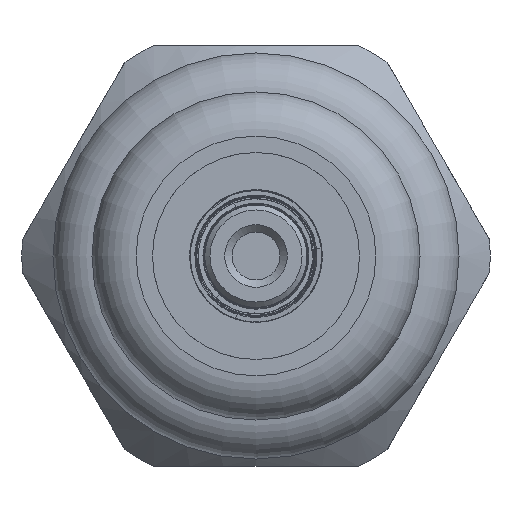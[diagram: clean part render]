
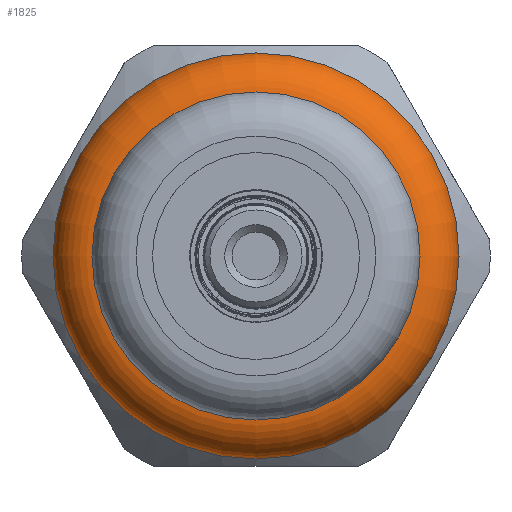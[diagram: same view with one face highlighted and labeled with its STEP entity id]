
A CAD part, left-side view. The second image highlights one B-rep face of the part: STEP entity #1825.
In plain terms, the highlighted toroidal (fillet/blend) face has major radius 10.75 mm and minor radius 3 mm.
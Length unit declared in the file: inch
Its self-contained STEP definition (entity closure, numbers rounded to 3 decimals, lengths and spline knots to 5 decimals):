
#22=TOROIDAL_SURFACE('',#2013,0.42323,0.11811);
#182=FACE_OUTER_BOUND('',#288,.T.);
#288=EDGE_LOOP('',(#1361,#1362,#1363,#1364,#1365,#1366));
#574=CIRCLE('',#2014,0.43307);
#575=CIRCLE('',#2015,0.43307);
#576=CIRCLE('',#2016,0.11811);
#577=CIRCLE('',#2017,0.54134);
#578=CIRCLE('',#2018,0.54134);
#745=VERTEX_POINT('',#3124);
#746=VERTEX_POINT('',#3125);
#747=VERTEX_POINT('',#3128);
#748=VERTEX_POINT('',#3130);
#968=EDGE_CURVE('',#745,#746,#574,.T.);
#969=EDGE_CURVE('',#746,#745,#575,.T.);
#970=EDGE_CURVE('',#746,#747,#576,.T.);
#971=EDGE_CURVE('',#747,#748,#577,.T.);
#972=EDGE_CURVE('',#748,#747,#578,.T.);
#1361=ORIENTED_EDGE('',*,*,#968,.F.);
#1362=ORIENTED_EDGE('',*,*,#969,.F.);
#1363=ORIENTED_EDGE('',*,*,#970,.T.);
#1364=ORIENTED_EDGE('',*,*,#971,.T.);
#1365=ORIENTED_EDGE('',*,*,#972,.T.);
#1366=ORIENTED_EDGE('',*,*,#970,.F.);
#1825=ADVANCED_FACE('',(#182),#22,.T.);
#2013=AXIS2_PLACEMENT_3D('',#3123,#2405,#2406);
#2014=AXIS2_PLACEMENT_3D('',#3126,#2407,#2408);
#2015=AXIS2_PLACEMENT_3D('',#3127,#2409,#2410);
#2016=AXIS2_PLACEMENT_3D('',#3129,#2411,#2412);
#2017=AXIS2_PLACEMENT_3D('',#3131,#2413,#2414);
#2018=AXIS2_PLACEMENT_3D('',#3132,#2415,#2416);
#2405=DIRECTION('center_axis',(-1.,0.,0.));
#2406=DIRECTION('ref_axis',(0.,0.866,-0.5));
#2407=DIRECTION('center_axis',(-1.,0.,0.));
#2408=DIRECTION('ref_axis',(0.,0.866,-0.5));
#2409=DIRECTION('center_axis',(-1.,0.,0.));
#2410=DIRECTION('ref_axis',(0.,0.866,-0.5));
#2411=DIRECTION('center_axis',(0.,0.5,0.866));
#2412=DIRECTION('ref_axis',(0.,-0.866,0.5));
#2413=DIRECTION('center_axis',(-1.,0.,0.));
#2414=DIRECTION('ref_axis',(0.,0.866,-0.5));
#2415=DIRECTION('center_axis',(-1.,0.,0.));
#2416=DIRECTION('ref_axis',(0.,0.866,-0.5));
#3123=CARTESIAN_POINT('Origin',(-2.77285,-1.13623,0.37627));
#3124=CARTESIAN_POINT('',(-2.89055,-0.76118,0.15974));
#3125=CARTESIAN_POINT('',(-2.89055,-1.51128,0.59281));
#3126=CARTESIAN_POINT('Origin',(-2.89055,-1.13623,0.37627));
#3127=CARTESIAN_POINT('Origin',(-2.89055,-1.13623,0.37627));
#3128=CARTESIAN_POINT('',(-2.77285,-1.60505,0.64694));
#3129=CARTESIAN_POINT('Origin',(-2.77285,-1.50276,0.58789));
#3130=CARTESIAN_POINT('',(-2.77285,-0.66742,0.1056));
#3131=CARTESIAN_POINT('Origin',(-2.77285,-1.13623,0.37627));
#3132=CARTESIAN_POINT('Origin',(-2.77285,-1.13623,0.37627));
